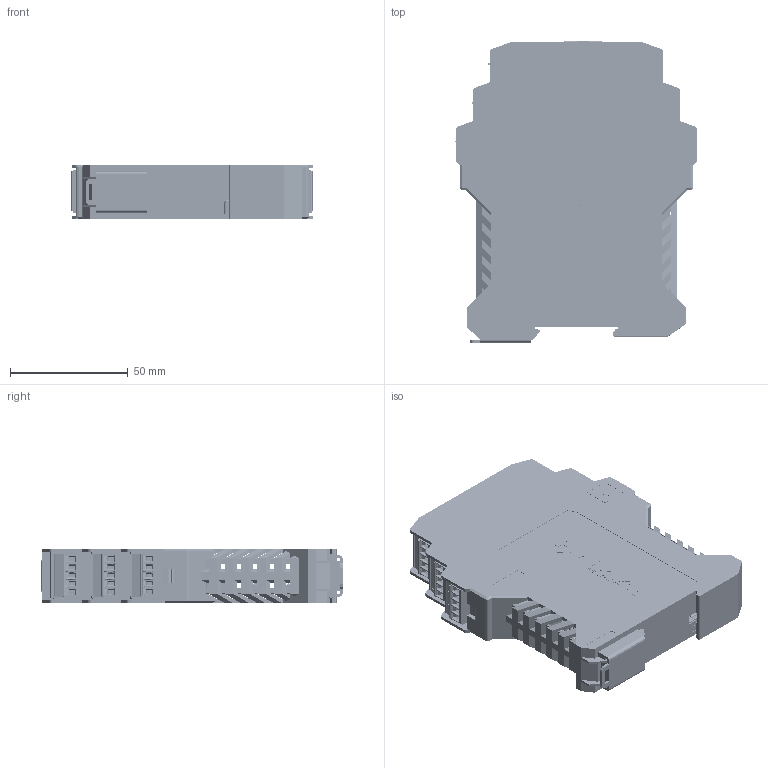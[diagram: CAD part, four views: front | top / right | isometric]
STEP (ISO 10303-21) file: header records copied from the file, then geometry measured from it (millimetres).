
FILE_DESCRIPTION(('STEP AP214'),'1');
FILE_NAME('ED-538 Cased 3D Step.step','2020-12-17T13:12:31',(' '),(' '),'Spatial InterOp 3D','XD3DPlugin XRACreate',' ');
FILE_SCHEMA(('automotive_design'));
Length unit declared in the file: millimetre
Products named in the file (57): Submodel-\Input_S\82HEA3MM5TBX5_L_BLACK.xtd; 82HEA3MM5TBX5_L_BLACK; Submodel-82HEA3MM5TBX5_L_BLACK_part_simplified_TBX5_LEFT; DesignRootModel; Submodel-\Input_S\82HEA3MM5TBX5_R_GREY_0.xtd; 82HEA3MM5TBX5_R_GREY_0; Submodel-82HEA3MM5TBX5_R_YELLOW_part_simplified_TBX5_RIGHT; Submodel-\Input_S\20REL3VA.xtd; 20REL3VA; Submodel-20REL3VA_part_simplified_HF46F-H2; Submodel-\Input_S\SMD_ELEC_D.xtd; SMD_ELEC_D; Submodel-7547UF50V_part_simplified_SMD_ELEC_D; Submodel-\Input_S\00MAGJACKILED.xtd; 00MAGJACKILED; Submodel-00MAGJACKILED_part_simplified_MAGJACK_LEDS; Submodel-\Input_S\50HEA3X1.xtd; 50HEA3X1; Submodel-50HEA3X1_part_simplified_H100MIL1X3; Submodel-\Input_S\6610UH5A5.xtd; 6610UH5A5; Submodel-6610UH5A5_part_simplified_SRR1260; Submodel-\Input_S\50HEA2X3.xtd; 50HEA2X3; Submodel-50HEA3X2_part_simplified_H100MIL2X3; Submodel-\Input_S\LEDX2BLOCK_RESET_0.xtd; LEDX2BLOCK_RESET_0; Submodel-55LEDX2REDGREEN_part_simplified_LEDX2BLOCK; Submodel-\Input_S\40SMTBUTTON_0.xtd; 40SMTBUTTON_0; Submodel-40SMTBUTTON_part_simplified_SMTBUTTON; Submodel-\Input_S\SMC.xtd; SMC; Submodel-55TZ1K5SMC36V_part_simplified_SMC; Submodel-\Input_S\50HEA4X2.xtd; 50HEA4X2; Submodel-50HEA4X2_part_simplified_H100MIL2X4; uid__9223372036854779245; Submodel-AssyDefn_8; EDCase3Way.sat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
Assembly tree (75 placements, depth 5):
  ED-538 Cased 3D Step
    DesignRootModel
      Submodel-82HEA3MM5TBX5_L_BLACK_part_simplified_TBX5_LEFT  x3
        Submodel-\Input_S\82HEA3MM5TBX5_L_BLACK.xtd
          82HEA3MM5TBX5_L_BLACK
      Submodel-82HEA3MM5TBX5_R_YELLOW_part_simplified_TBX5_RIGHT  x3
        Submodel-\Input_S\82HEA3MM5TBX5_R_GREY_0.xtd
          82HEA3MM5TBX5_R_GREY_0
      Submodel-20REL3VA_part_simplified_HF46F-H2  x4
        Submodel-\Input_S\20REL3VA.xtd
          20REL3VA
      Submodel-7547UF50V_part_simplified_SMD_ELEC_D
        Submodel-\Input_S\SMD_ELEC_D.xtd
          SMD_ELEC_D
      Submodel-00MAGJACKILED_part_simplified_MAGJACK_LEDS
        Submodel-\Input_S\00MAGJACKILED.xtd
          00MAGJACKILED
      Submodel-50HEA3X1_part_simplified_H100MIL1X3  x3
        Submodel-\Input_S\50HEA3X1.xtd
          50HEA3X1
      Submodel-6610UH5A5_part_simplified_SRR1260
        Submodel-\Input_S\6610UH5A5.xtd
          6610UH5A5
      Submodel-50HEA3X2_part_simplified_H100MIL2X3
        Submodel-\Input_S\50HEA2X3.xtd
          50HEA2X3
      Submodel-55LEDX2REDGREEN_part_simplified_LEDX2BLOCK
        Submodel-\Input_S\LEDX2BLOCK_RESET_0.xtd
          LEDX2BLOCK_RESET_0
      Submodel-40SMTBUTTON_part_simplified_SMTBUTTON
        Submodel-\Input_S\40SMTBUTTON_0.xtd
          40SMTBUTTON_0
      Submodel-55TZ1K5SMC36V_part_simplified_SMC  x3
        Submodel-\Input_S\SMC.xtd
          SMC
      Submodel-50HEA4X2_part_simplified_H100MIL2X4
        Submodel-\Input_S\50HEA4X2.xtd
          50HEA4X2
      uid__9223372036854779245
      Submodel-AssyDefn_8
        EDCase3Way.sat
      Submodel-AssyDefn_7  x2
        BrainboxesLogo.sat
      Submodel-AssyDefn_6  x6
        82PLUG3MM5_X5_1_5_BLCK.sat
      Submodel-DATUM_2441444698_part_DATUM
        Submodel-noModelForPart_DATUM_2441444698
          placementOutline
      Submodel-TOOLINGHOLE_2132796670_part_MOUNTINGHOLE  x2
        Submodel-noModelForPart_TOOLINGHOLE_2132796670
          placementOutline
      Submodel-FIDUCIAL_3219705766_part_FIDUCIAL  x2
        Submodel-noModelForPart_FIDUCIAL_3219705766
          placementOutline
      Submodel-CHASSISPINS_566188278_part_CHASSISPINS
        Submodel-noModelForPart_CHASSISPINS_566188278
          placementOutline
Bounding box: 102.37 x 127.68 x 22.6 mm (x, y, z)
Volume: 120813.7 mm3; surface area: 166964 mm2
Topology: 333 solids, 333 shells, 21121 faces, 56550 edges, 36714 vertices
Faces by surface type: plane 15382, cylinder 4185, bspline 648, torus 508, cone 349, sphere 49
Full cylindrical faces by diameter (mm): 0.6 x2, 3.81 x1
Entity records: 502761 total; most frequent: CARTESIAN_POINT 83444, ORIENTED_EDGE 66812, DIRECTION 63153, EDGE_CURVE 33406, LINE 26713, VECTOR 26713, VERTEX_POINT 21623, AXIS2_PLACEMENT_3D 18220
